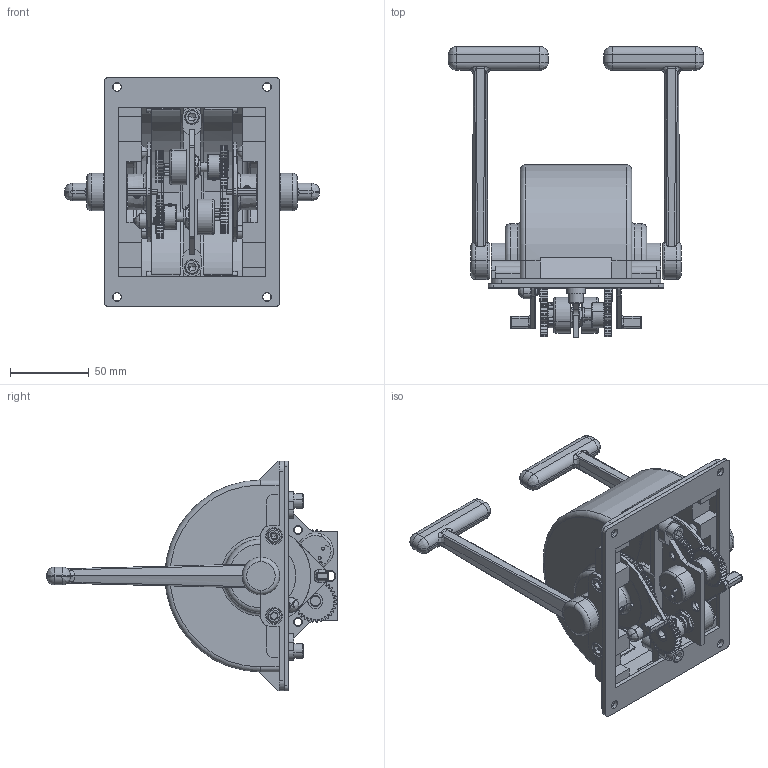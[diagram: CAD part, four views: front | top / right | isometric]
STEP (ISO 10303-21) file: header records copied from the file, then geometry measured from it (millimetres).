
FILE_DESCRIPTION (( 'STEP AP214' ), '1' );
FILE_NAME ('6523-TBS.STEP', '2025-06-04T18:58:33', ( '' ), ( '' ), 'SwSTEP 2.0', 'SolidWorks 2023', '' );
FILE_SCHEMA (( 'AUTOMOTIVE_DESIGN' ));
Products named in the file (1): 6523-TBS
Bounding box: 162.1 x 184.72 x 146.05 mm (x, y, z)
Surface area: 153799.6 mm2 (no closed solid volume)
Topology: 0 solids, 49 shells, 1184 faces, 4817 edges, 3562 vertices
Faces by surface type: cylinder 496, bspline 264, plane 260, cone 89, torus 71, sphere 4
Entity records: 68396 total; most frequent: CARTESIAN_POINT 31308, DIRECTION 7361, ORIENTED_EDGE 7326, EDGE_CURVE 4783, VERTEX_POINT 3558, AXIS2_PLACEMENT_3D 2930, CIRCLE 2009, LINE 1501
